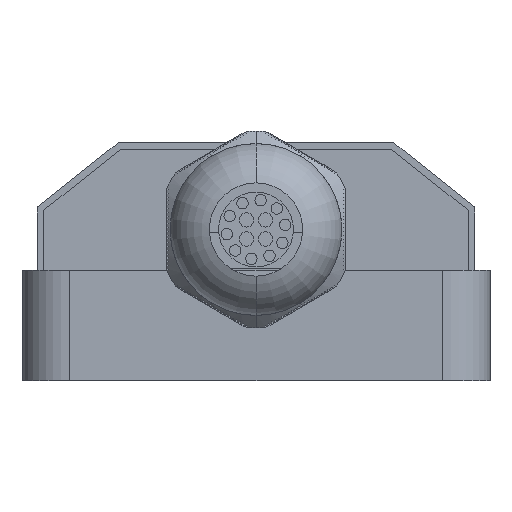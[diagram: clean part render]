
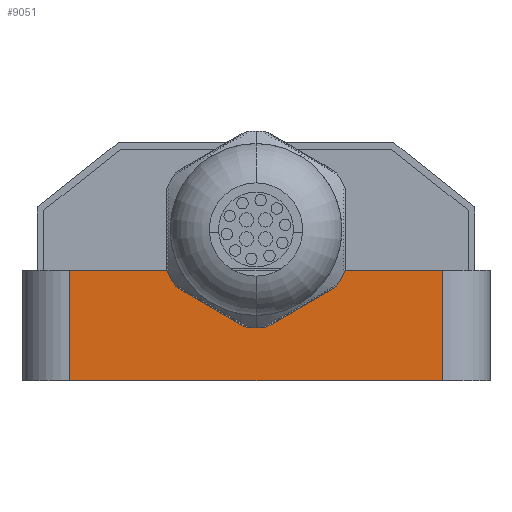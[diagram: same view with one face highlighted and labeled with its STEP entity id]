
A CAD part, left-side view. The second image highlights one B-rep face of the part: STEP entity #9051.
In plain terms, the highlighted planar face has unit normal (-1, 0, 0).
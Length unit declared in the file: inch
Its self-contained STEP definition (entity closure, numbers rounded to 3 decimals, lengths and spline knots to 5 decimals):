
#9051 = ADVANCED_FACE ( 'NONE', ( #116325 ), #118579, .F. ) ;
#10465 = AXIS2_PLACEMENT_3D ( 'NONE', #86298, #86299, #86300 ) ;
#10466 = AXIS2_PLACEMENT_3D ( 'NONE', #86311, #86312, #86313 ) ;
#10468 = AXIS2_PLACEMENT_3D ( 'NONE', #86314, #86315, #86316 ) ;
#32373 = CARTESIAN_POINT ( 'NONE',  ( 0., 0.46852, 0.58 ) ) ;
#32379 = CARTESIAN_POINT ( 'NONE',  ( 0., -0.46852, 0.58 ) ) ;
#32389 = CARTESIAN_POINT ( 'NONE',  ( 0., 0.0576, 0.28273 ) ) ;
#32390 = CARTESIAN_POINT ( 'NONE',  ( 0., 0.41484, 0.48898 ) ) ;
#32393 = CARTESIAN_POINT ( 'NONE',  ( 0., -0.41484, 0.48898 ) ) ;
#32394 = CARTESIAN_POINT ( 'NONE',  ( 0., 0.98, 0.58 ) ) ;
#32395 = CARTESIAN_POINT ( 'NONE',  ( 0., 0.98, 0. ) ) ;
#32396 = CARTESIAN_POINT ( 'NONE',  ( 0., -0.98, 0. ) ) ;
#32397 = CARTESIAN_POINT ( 'NONE',  ( 0., -0.98, 0.58 ) ) ;
#32399 = CARTESIAN_POINT ( 'NONE',  ( 0., -0.0576, 0.28273 ) ) ;
#83808 = LINE ( 'NONE', #86297, #83858 ) ;
#83853 = CIRCLE ( 'NONE', #10465, 0.5155 ) ;
#83854 = LINE ( 'NONE', #86291, #83856 ) ;
#83856 = VECTOR ( 'NONE', #86292, 39.37008 ) ;
#83857 = LINE ( 'NONE', #86303, #83860 ) ;
#83858 = VECTOR ( 'NONE', #86302, 39.37008 ) ;
#83859 = LINE ( 'NONE', #86305, #83862 ) ;
#83860 = VECTOR ( 'NONE', #86304, 39.37008 ) ;
#83861 = LINE ( 'NONE', #86307, #83864 ) ;
#83862 = VECTOR ( 'NONE', #86306, 39.37008 ) ;
#83863 = CIRCLE ( 'NONE', #10466, 0.5155 ) ;
#83864 = VECTOR ( 'NONE', #86308, 39.37008 ) ;
#83865 = LINE ( 'NONE', #86301, #83867 ) ;
#83866 = CIRCLE ( 'NONE', #10468, 0.5155 ) ;
#83867 = VECTOR ( 'NONE', #86296, 39.37008 ) ;
#83868 = LINE ( 'NONE', #86309, #83870 ) ;
#83870 = VECTOR ( 'NONE', #86310, 39.37008 ) ;
#86291 = CARTESIAN_POINT ( 'NONE',  ( 0., -0.98, 0.58 ) ) ;
#86292 = DIRECTION ( 'NONE',  ( 0., 1., 0. ) ) ;
#86296 = DIRECTION ( 'NONE',  ( 0., 0.866, -0.5 ) ) ;
#86297 = CARTESIAN_POINT ( 'NONE',  ( 0., 0.98, 0.78 ) ) ;
#86298 = CARTESIAN_POINT ( 'NONE',  ( 0., 0., 0.795 ) ) ;
#86299 = DIRECTION ( 'NONE',  ( -1., 0., 0. ) ) ;
#86300 = DIRECTION ( 'NONE',  ( 0., 0., 1. ) ) ;
#86301 = CARTESIAN_POINT ( 'NONE',  ( 0., 0.1504, 0.16264 ) ) ;
#86302 = DIRECTION ( 'NONE',  ( 0., 0., -1. ) ) ;
#86303 = CARTESIAN_POINT ( 'NONE',  ( 0., 1.23, 0. ) ) ;
#86304 = DIRECTION ( 'NONE',  ( 0., -1., 0. ) ) ;
#86305 = CARTESIAN_POINT ( 'NONE',  ( 0., -0.98, 0.78 ) ) ;
#86306 = DIRECTION ( 'NONE',  ( 0., 0., 1. ) ) ;
#86307 = CARTESIAN_POINT ( 'NONE',  ( 0., -0.98, 0.58 ) ) ;
#86308 = DIRECTION ( 'NONE',  ( 0., 1., 0. ) ) ;
#86309 = CARTESIAN_POINT ( 'NONE',  ( 0., 0.62285, 0.60907 ) ) ;
#86310 = DIRECTION ( 'NONE',  ( 0., 0.866, 0.5 ) ) ;
#86311 = CARTESIAN_POINT ( 'NONE',  ( 0., 0., 0.795 ) ) ;
#86312 = DIRECTION ( 'NONE',  ( -1., 0., 0. ) ) ;
#86313 = DIRECTION ( 'NONE',  ( 0., 0., 1. ) ) ;
#86314 = CARTESIAN_POINT ( 'NONE',  ( 0., 0., 0.795 ) ) ;
#86315 = DIRECTION ( 'NONE',  ( -1., 0., 0. ) ) ;
#86316 = DIRECTION ( 'NONE',  ( 0., 0., 1. ) ) ;
#92893 = VERTEX_POINT ( 'NONE', #32373 ) ;
#92899 = VERTEX_POINT ( 'NONE', #32379 ) ;
#92909 = VERTEX_POINT ( 'NONE', #32389 ) ;
#92910 = VERTEX_POINT ( 'NONE', #32390 ) ;
#92913 = VERTEX_POINT ( 'NONE', #32393 ) ;
#92914 = VERTEX_POINT ( 'NONE', #32394 ) ;
#92915 = VERTEX_POINT ( 'NONE', #32395 ) ;
#92916 = VERTEX_POINT ( 'NONE', #32396 ) ;
#92917 = VERTEX_POINT ( 'NONE', #32397 ) ;
#92919 = VERTEX_POINT ( 'NONE', #32399 ) ;
#101421 = EDGE_LOOP ( 'NONE', ( #105330, #105333, #105337, #105341, #105345, #105348, #105350, #105352, #105356, #105360 ) ) ;
#105330 = ORIENTED_EDGE ( 'NONE', *, *, #112034, .F. ) ;
#105333 = ORIENTED_EDGE ( 'NONE', *, *, #112036, .T. ) ;
#105337 = ORIENTED_EDGE ( 'NONE', *, *, #112038, .T. ) ;
#105341 = ORIENTED_EDGE ( 'NONE', *, *, #112040, .T. ) ;
#105345 = ORIENTED_EDGE ( 'NONE', *, *, #112041, .T. ) ;
#105348 = ORIENTED_EDGE ( 'NONE', *, *, #112043, .T. ) ;
#105350 = ORIENTED_EDGE ( 'NONE', *, *, #112045, .F. ) ;
#105352 = ORIENTED_EDGE ( 'NONE', *, *, #112048, .T. ) ;
#105356 = ORIENTED_EDGE ( 'NONE', *, *, #112051, .F. ) ;
#105360 = ORIENTED_EDGE ( 'NONE', *, *, #112054, .T. ) ;
#105943 = AXIS2_PLACEMENT_3D ( 'NONE', #118601, #118602, #118603 ) ;
#112034 = EDGE_CURVE ( 'NONE', #92893, #92910, #83853, .T. ) ;
#112036 = EDGE_CURVE ( 'NONE', #92893, #92914, #83854, .T. ) ;
#112038 = EDGE_CURVE ( 'NONE', #92914, #92915, #83808, .T. ) ;
#112040 = EDGE_CURVE ( 'NONE', #92915, #92916, #83857, .T. ) ;
#112041 = EDGE_CURVE ( 'NONE', #92916, #92917, #83859, .T. ) ;
#112043 = EDGE_CURVE ( 'NONE', #92917, #92899, #83861, .T. ) ;
#112045 = EDGE_CURVE ( 'NONE', #92913, #92899, #83863, .T. ) ;
#112048 = EDGE_CURVE ( 'NONE', #92913, #92919, #83865, .T. ) ;
#112051 = EDGE_CURVE ( 'NONE', #92909, #92919, #83866, .T. ) ;
#112054 = EDGE_CURVE ( 'NONE', #92909, #92910, #83868, .T. ) ;
#116325 = FACE_OUTER_BOUND ( 'NONE', #101421, .T. ) ;
#118579 = PLANE ( 'NONE',  #105943 ) ;
#118601 = CARTESIAN_POINT ( 'NONE',  ( 0., 1.23, 0.78 ) ) ;
#118602 = DIRECTION ( 'NONE',  ( 1., 0., 0. ) ) ;
#118603 = DIRECTION ( 'NONE',  ( 0., 1., 0. ) ) ;
